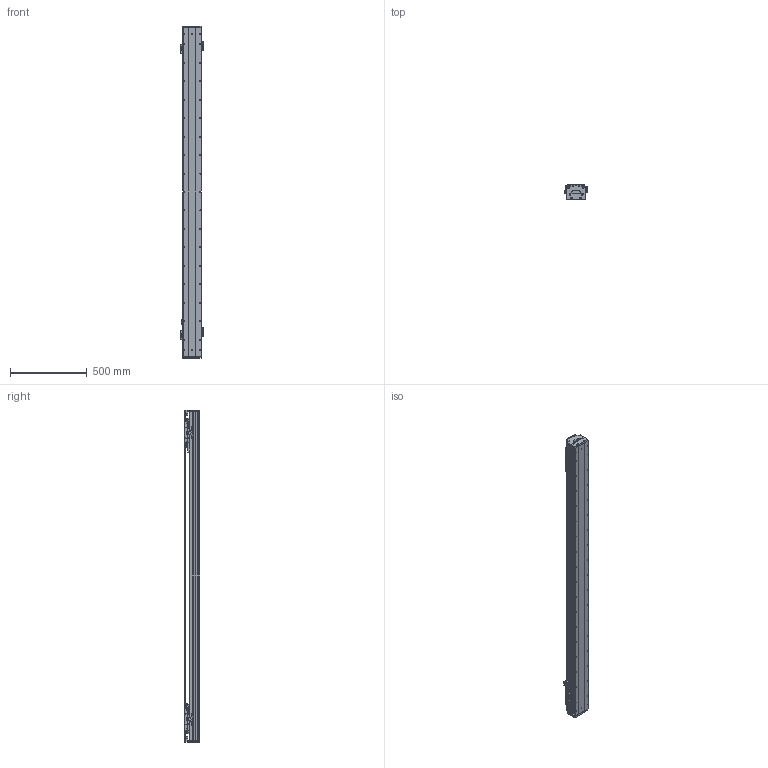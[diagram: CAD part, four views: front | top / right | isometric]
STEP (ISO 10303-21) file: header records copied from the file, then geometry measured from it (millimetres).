
FILE_DESCRIPTION (( 'STEP AP203' ), '1' );
FILE_NAME ('DKW119-2×C2-W060(T1640-L005-0.2).STEP', '2021-09-15T06:57:01', ( '微软用户' ), ( '微软中国' ), 'SwSTEP 2.0', 'SolidWorks 2018', '' );
FILE_SCHEMA (( 'CONFIG_CONTROL_DESIGN' ));
Length unit declared in the file: millimetre
Products named in the file (26): DKW-SG-GYP-H-00 嫖萇覜茼え; 砎蝶猾沭; MSB15-DG-U; RUS嫖掑喜; 12160-0000-003-00 DKW120詩湍嶺輸; DKW119-RU-DTJ-00 RU2黍杅芛盓殤; Ru2; 12160-0000-004-00  DKW120詩湍揤輸; 电机出线 ^DKW119-2×C2-W060(T1640-L005-0.2); CKM02-W060_00; DKW119 单轴模组-拉钢带组件; CKMA01-W060-TRLxxx; DKW-DG-XJ-Z-00 笢潔滅袉砎蝶; pm-y65; DKW-HXJ-JY-00 遣喳砎蝶; DKW-GYP-ZJ-00 笢潔嫖萇覜茼え; 10980-0001-003-00 嫖萇羲壽嘐隅釱; 11062-0001-004-00 DKW119傷啣; DKW-KGZ-ZJ-00 中间光电开关支架; 嫖萇羲壽蚾饜极; 06652-0001-004-00 DKW120嶺輸菜輸; EE_SX674A; 嫖萇羲壽蚾饜极A; 12018-0001-002-00 詩湍; 12018-0001-001-00 菁釱; DKW119-2×C2-W060(T1640-L005-0.2)
Assembly tree (45 placements, depth 3):
  DKW119-2×C2-W060(T1640-L005-0.2)
    12018-0001-001-00 菁釱
    MSB15-DG-U  x2
    DKW119-RU-DTJ-00 RU2黍杅芛盓殤  x2
    电机出线 ^DKW119-2×C2-W060(T1640-L005-0.2)  x2
    CKMA01-W060-TRLxxx
    DKW119 单轴模组-拉钢带组件
      DKW-HXJ-JY-00 遣喳砎蝶  x4
      11062-0001-004-00 DKW119傷啣  x2
      06652-0001-004-00 DKW120嶺輸菜輸  x4
      12018-0001-002-00 詩湍
      砎蝶猾沭  x2
      12160-0000-003-00 DKW120詩湍嶺輸  x2
      12160-0000-004-00  DKW120詩湍揤輸  x2
    嫖萇羲壽蚾饜极
      pm-y65  x2
      10980-0001-003-00 嫖萇羲壽嘐隅釱
    嫖萇羲壽蚾饜极A
      pm-y65  x2
      10980-0001-003-00 嫖萇羲壽嘐隅釱
    DKW-SG-GYP-H-00 嫖萇覜茼え  x2
    RUS嫖掑喜
    Ru2  x2
    CKM02-W060_00  x2
    DKW-DG-XJ-Z-00 笢潔滅袉砎蝶
    DKW-GYP-ZJ-00 笢潔嫖萇覜茼え
    DKW-KGZ-ZJ-00 中间光电开关支架
    EE_SX674A
Bounding box: 154.3 x 99 x 2156 mm (x, y, z)
Volume: 9991999.3 mm3; surface area: 3185880.3 mm2
Topology: 62 solids, 160 shells, 6297 faces, 16758 edges, 10814 vertices
Faces by surface type: plane 3500, cylinder 1881, bspline 494, cone 422
Entity records: 128559 total; most frequent: CARTESIAN_POINT 43262, ORIENTED_EDGE 17171, DIRECTION 16342, EDGE_CURVE 8626, VERTEX_POINT 5668, AXIS2_PLACEMENT_3D 5462, VECTOR 5418, LINE 5418
